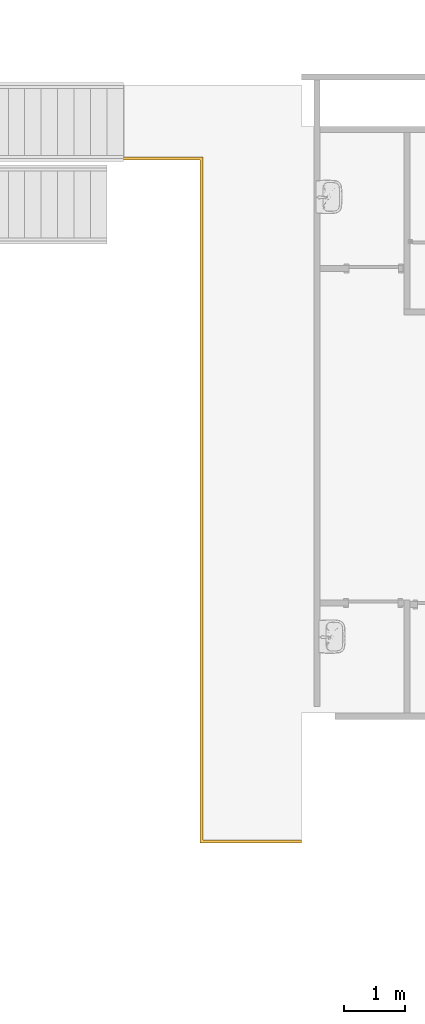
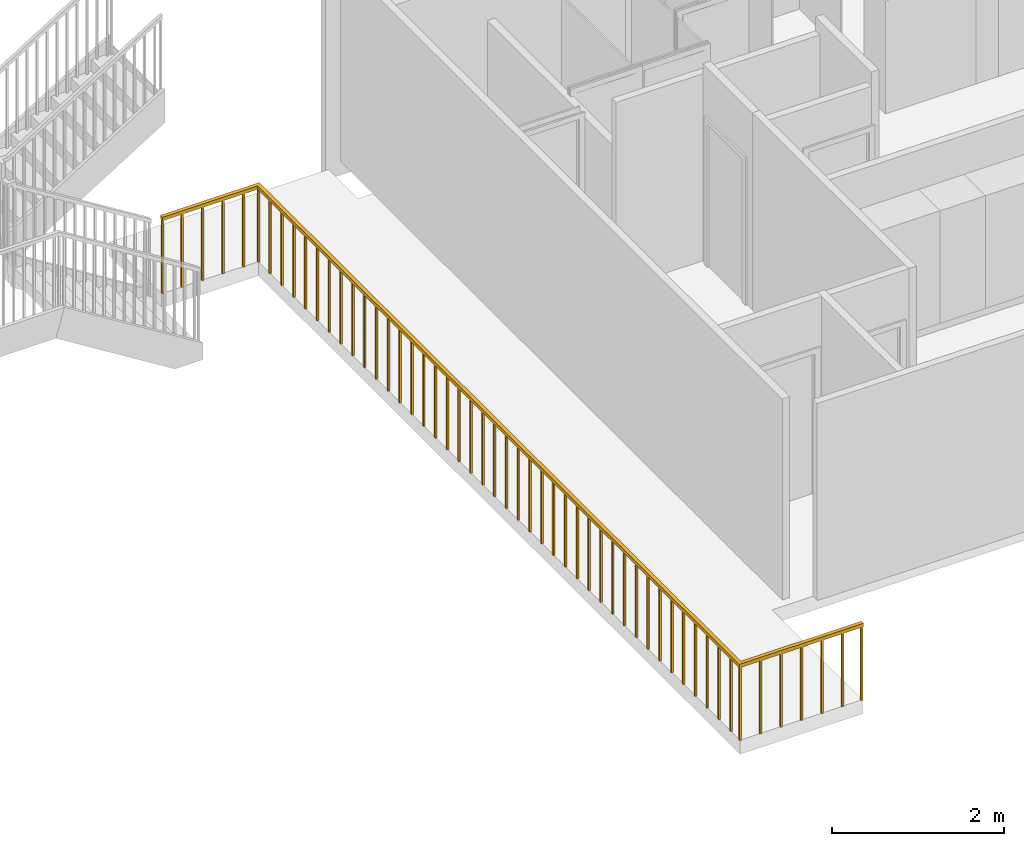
# One storey, part 10 of 14: 1 railing.
"""IFC2X3 building model written with IfcOpenShell, lengths in millimetres."""

from ifc_helpers import new_model, entity, si_unit, converted_unit, derived_unit, direction, frame, origin, place, context, subcontext, project, spatial, faceted_brep, element, save


model = new_model("IFC2X3")

# Units and contexts
model_context = context("Model", 3, precision=0.01, world=origin(), true_north=direction((4.05803320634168e-15, -1.0)))
body_context = subcontext(model_context, "Body", "Model", "MODEL_VIEW")
ifc_project = project(units=[si_unit("LENGTHUNIT", "METRE", prefix="MILLI"), si_unit("AREAUNIT", "SQUARE_METRE"), si_unit("VOLUMEUNIT", "CUBIC_METRE"), converted_unit("PLANEANGLEUNIT", "DEGREE", entity("IfcRatioMeasure", 0.0174532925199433), si_unit("PLANEANGLEUNIT", "RADIAN"), dimensions=[0, 0, 0, 0, 0, 0, 0]), si_unit("MASSUNIT", "GRAM", prefix="KILO"), derived_unit("MASSDENSITYUNIT", [(si_unit("MASSUNIT", "GRAM", prefix="KILO"), 1), (si_unit("LENGTHUNIT", "METRE"), -3)]), si_unit("TIMEUNIT", "SECOND"), si_unit("FREQUENCYUNIT", "HERTZ"), si_unit("THERMODYNAMICTEMPERATUREUNIT", "DEGREE_CELSIUS"), derived_unit("THERMALTRANSMITTANCEUNIT", [(si_unit("MASSUNIT", "GRAM", prefix="KILO"), 1), (si_unit("THERMODYNAMICTEMPERATUREUNIT", "KELVIN"), -1), (si_unit("TIMEUNIT", "SECOND"), -3)]), derived_unit("VOLUMETRICFLOWRATEUNIT", [(si_unit("LENGTHUNIT", "METRE"), 3), (si_unit("TIMEUNIT", "SECOND"), -1)]), si_unit("ELECTRICCURRENTUNIT", "AMPERE"), si_unit("ELECTRICVOLTAGEUNIT", "VOLT"), si_unit("POWERUNIT", "WATT"), si_unit("FORCEUNIT", "NEWTON", prefix="KILO"), si_unit("ILLUMINANCEUNIT", "LUX"), si_unit("LUMINOUSFLUXUNIT", "LUMEN"), si_unit("LUMINOUSINTENSITYUNIT", "CANDELA"), derived_unit("USERDEFINED", [(si_unit("MASSUNIT", "GRAM", prefix="KILO"), -1), (si_unit("LENGTHUNIT", "METRE"), -2), (si_unit("TIMEUNIT", "SECOND"), 3), (si_unit("LUMINOUSFLUXUNIT", "LUMEN"), 1)]), derived_unit("LINEARVELOCITYUNIT", [(si_unit("LENGTHUNIT", "METRE"), 1), (si_unit("TIMEUNIT", "SECOND"), -1)]), si_unit("PRESSUREUNIT", "PASCAL"), derived_unit("USERDEFINED", [(si_unit("LENGTHUNIT", "METRE"), -2), (si_unit("MASSUNIT", "GRAM", prefix="KILO"), 1), (si_unit("TIMEUNIT", "SECOND"), -2)])], contexts=[model_context])

# Site, building, storey
site_placement = place(None, frame((927466.849349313, 583801.882853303, 0.0), z_axis=(0.0, 0.0, 1.0), x_axis=(-1.0, 0.0, 0.0)))
site = spatial("IfcSite", under=ifc_project, at=site_placement, Name="Surface", CompositionType="ELEMENT")
building_placement = place(site_placement, origin())
building = spatial("IfcBuilding", under=site, at=building_placement, CompositionType="ELEMENT")
storey_placement = place(building_placement, frame((0.0, 0.0, 48170.0)))
storey = spatial("IfcBuildingStorey", under=building, at=storey_placement, Name="First floor", CompositionType="ELEMENT", Elevation=48170.0)

# Railing
railing_placement = place(storey_placement, frame((-80897.1407976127, 13272.1010509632, 0.0)))
element("IfcRailing", 1, at=railing_placement, inside=storey, Name="Railing:1100mm", ObjectType="Railing:1100mm", PredefinedType="NOTDEFINED", context=body_context, shape_type="Brep", body=[
    faceted_brep([(280.650441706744, 11227.0767002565, 1050.0), (280.650441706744, 11227.0767002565, 0.0), (280.650441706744, 11252.0767002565, 0.0), (280.650441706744, 11252.0767002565, 1050.0), (255.65044170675, 11252.0767002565, 0.0), (255.650441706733, 11252.0767002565, 1050.0), (255.650441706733, 11227.0767002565, 0.0), (255.650441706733, 11227.0767002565, 1050.0)], [[[0, 1, 2, 3]], [[3, 2, 4, 5]], [[5, 4, 6, 7]], [[1, 0, 7, 6]], [[0, 3, 5, 7]], [[2, 1, 6, 4]]]),
    faceted_brep([(555.650441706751, 11227.0767002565, 1050.0), (555.650441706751, 11227.0767002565, 0.0), (555.650441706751, 11252.0767002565, 0.0), (555.650441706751, 11252.0767002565, 1050.0), (530.650441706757, 11252.0767002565, 0.0), (530.650441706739, 11252.0767002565, 1050.0), (530.650441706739, 11227.0767002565, 0.0), (530.650441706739, 11227.0767002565, 1050.0)], [[[0, 1, 2, 3]], [[3, 2, 4, 5]], [[5, 4, 6, 7]], [[1, 0, 7, 6]], [[0, 3, 5, 7]], [[2, 1, 6, 4]]]),
    faceted_brep([(830.65044170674, 11227.0767002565, 1050.0), (830.65044170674, 11227.0767002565, 0.0), (830.65044170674, 11252.0767002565, 0.0), (830.65044170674, 11252.0767002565, 1050.0), (805.650441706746, 11252.0767002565, 0.0), (805.650441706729, 11252.0767002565, 1050.0), (805.650441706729, 11227.0767002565, 0.0), (805.650441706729, 11227.0767002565, 1050.0)], [[[0, 1, 2, 3]], [[3, 2, 4, 5]], [[5, 4, 6, 7]], [[1, 0, 7, 6]], [[0, 3, 5, 7]], [[2, 1, 6, 4]]]),
    faceted_brep([(1105.65044170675, 11227.0767002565, 1050.0), (1105.65044170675, 11227.0767002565, 0.0), (1105.65044170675, 11252.0767002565, 0.0), (1105.65044170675, 11252.0767002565, 1050.0), (1080.65044170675, 11252.0767002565, 0.0), (1080.65044170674, 11252.0767002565, 1050.0), (1080.65044170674, 11227.0767002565, 0.0), (1080.65044170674, 11227.0767002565, 1050.0)], [[[0, 1, 2, 3]], [[3, 2, 4, 5]], [[5, 4, 6, 7]], [[1, 0, 7, 6]], [[0, 3, 5, 7]], [[2, 1, 6, 4]]]),
    faceted_brep([(1380.65044170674, 11227.0767002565, 1050.0), (1380.65044170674, 11227.0767002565, 0.0), (1380.65044170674, 11252.0767002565, 0.0), (1380.65044170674, 11252.0767002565, 1050.0), (1355.65044170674, 11252.0767002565, 0.0), (1355.65044170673, 11252.0767002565, 1050.0), (1355.65044170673, 11227.0767002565, 0.0), (1355.65044170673, 11227.0767002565, 1050.0)], [[[0, 1, 2, 3]], [[3, 2, 4, 5]], [[5, 4, 6, 7]], [[1, 0, 7, 6]], [[0, 3, 5, 7]], [[2, 1, 6, 4]]]),
    faceted_brep([(1630.65044170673, 11012.5, 1050.0), (1630.65044170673, 11012.5, 0.0), (1655.65044170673, 11012.5, 0.0), (1655.65044170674, 11012.5, 1050.0), (1655.65044170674, 11037.5, 0.0), (1655.65044170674, 11037.5, 1050.0), (1630.65044170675, 11037.5, 0.0), (1630.65044170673, 11037.5, 1050.0)], [[[0, 1, 2, 3]], [[3, 2, 4, 5]], [[5, 4, 6, 7]], [[1, 0, 7, 6]], [[0, 3, 5, 7]], [[2, 1, 6, 4]]]),
    faceted_brep([(1630.65044170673, 10737.5, 1050.0), (1630.65044170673, 10737.5, 0.0), (1655.65044170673, 10737.5, 0.0), (1655.65044170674, 10737.5, 1050.0), (1655.65044170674, 10762.5, 0.0), (1655.65044170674, 10762.5, 1050.0), (1630.65044170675, 10762.5, 0.0), (1630.65044170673, 10762.5, 1050.0)], [[[0, 1, 2, 3]], [[3, 2, 4, 5]], [[5, 4, 6, 7]], [[1, 0, 7, 6]], [[0, 3, 5, 7]], [[2, 1, 6, 4]]]),
    faceted_brep([(1630.65044170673, 10462.5, 1050.0), (1630.65044170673, 10462.5, 0.0), (1655.65044170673, 10462.5, 0.0), (1655.65044170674, 10462.5, 1050.0), (1655.65044170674, 10487.5, 0.0), (1655.65044170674, 10487.5, 1050.0), (1630.65044170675, 10487.5, 0.0), (1630.65044170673, 10487.5, 1050.0)], [[[0, 1, 2, 3]], [[3, 2, 4, 5]], [[5, 4, 6, 7]], [[1, 0, 7, 6]], [[0, 3, 5, 7]], [[2, 1, 6, 4]]]),
    faceted_brep([(1630.65044170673, 10187.5, 1050.0), (1630.65044170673, 10187.5, 0.0), (1655.65044170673, 10187.5, 0.0), (1655.65044170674, 10187.5, 1050.0), (1655.65044170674, 10212.5, 0.0), (1655.65044170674, 10212.5, 1050.0), (1630.65044170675, 10212.5, 0.0), (1630.65044170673, 10212.5, 1050.0)], [[[0, 1, 2, 3]], [[3, 2, 4, 5]], [[5, 4, 6, 7]], [[1, 0, 7, 6]], [[0, 3, 5, 7]], [[2, 1, 6, 4]]]),
    faceted_brep([(1630.65044170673, 9912.50000000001, 1050.0), (1630.65044170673, 9912.50000000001, 0.0), (1655.65044170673, 9912.50000000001, 0.0), (1655.65044170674, 9912.50000000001, 1050.0), (1655.65044170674, 9937.50000000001, 0.0), (1655.65044170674, 9937.50000000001, 1050.0), (1630.65044170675, 9937.50000000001, 0.0), (1630.65044170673, 9937.50000000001, 1050.0)], [[[0, 1, 2, 3]], [[3, 2, 4, 5]], [[5, 4, 6, 7]], [[1, 0, 7, 6]], [[0, 3, 5, 7]], [[2, 1, 6, 4]]]),
    faceted_brep([(1630.65044170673, 9637.50000000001, 1050.0), (1630.65044170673, 9637.50000000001, 0.0), (1655.65044170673, 9637.50000000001, 0.0), (1655.65044170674, 9637.50000000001, 1050.0), (1655.65044170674, 9662.50000000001, 0.0), (1655.65044170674, 9662.50000000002, 1050.0), (1630.65044170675, 9662.50000000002, 0.0), (1630.65044170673, 9662.50000000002, 1050.0)], [[[0, 1, 2, 3]], [[3, 2, 4, 5]], [[5, 4, 6, 7]], [[1, 0, 7, 6]], [[0, 3, 5, 7]], [[2, 1, 6, 4]]]),
    faceted_brep([(1630.65044170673, 9362.50000000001, 1050.0), (1630.65044170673, 9362.50000000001, 0.0), (1655.65044170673, 9362.50000000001, 0.0), (1655.65044170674, 9362.50000000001, 1050.0), (1655.65044170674, 9387.50000000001, 0.0), (1655.65044170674, 9387.50000000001, 1050.0), (1630.65044170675, 9387.50000000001, 0.0), (1630.65044170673, 9387.50000000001, 1050.0)], [[[0, 1, 2, 3]], [[3, 2, 4, 5]], [[5, 4, 6, 7]], [[1, 0, 7, 6]], [[0, 3, 5, 7]], [[2, 1, 6, 4]]]),
    faceted_brep([(1630.65044170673, 9087.50000000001, 1050.0), (1630.65044170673, 9087.50000000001, 0.0), (1655.65044170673, 9087.50000000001, 0.0), (1655.65044170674, 9087.50000000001, 1050.0), (1655.65044170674, 9112.50000000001, 0.0), (1655.65044170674, 9112.50000000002, 1050.0), (1630.65044170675, 9112.50000000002, 0.0), (1630.65044170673, 9112.50000000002, 1050.0)], [[[0, 1, 2, 3]], [[3, 2, 4, 5]], [[5, 4, 6, 7]], [[1, 0, 7, 6]], [[0, 3, 5, 7]], [[2, 1, 6, 4]]]),
    faceted_brep([(1630.65044170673, 8812.50000000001, 1050.0), (1630.65044170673, 8812.50000000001, 0.0), (1655.65044170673, 8812.50000000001, 0.0), (1655.65044170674, 8812.50000000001, 1050.0), (1655.65044170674, 8837.50000000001, 0.0), (1655.65044170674, 8837.50000000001, 1050.0), (1630.65044170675, 8837.50000000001, 0.0), (1630.65044170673, 8837.50000000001, 1050.0)], [[[0, 1, 2, 3]], [[3, 2, 4, 5]], [[5, 4, 6, 7]], [[1, 0, 7, 6]], [[0, 3, 5, 7]], [[2, 1, 6, 4]]]),
    faceted_brep([(1630.65044170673, 8537.50000000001, 1050.0), (1630.65044170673, 8537.50000000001, 0.0), (1655.65044170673, 8537.50000000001, 0.0), (1655.65044170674, 8537.50000000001, 1050.0), (1655.65044170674, 8562.50000000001, 0.0), (1655.65044170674, 8562.50000000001, 1050.0), (1630.65044170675, 8562.50000000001, 0.0), (1630.65044170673, 8562.50000000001, 1050.0)], [[[0, 1, 2, 3]], [[3, 2, 4, 5]], [[5, 4, 6, 7]], [[1, 0, 7, 6]], [[0, 3, 5, 7]], [[2, 1, 6, 4]]]),
    faceted_brep([(1630.65044170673, 8262.50000000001, 1050.0), (1630.65044170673, 8262.50000000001, 0.0), (1655.65044170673, 8262.50000000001, 0.0), (1655.65044170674, 8262.50000000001, 1050.0), (1655.65044170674, 8287.50000000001, 0.0), (1655.65044170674, 8287.50000000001, 1050.0), (1630.65044170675, 8287.50000000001, 0.0), (1630.65044170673, 8287.50000000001, 1050.0)], [[[0, 1, 2, 3]], [[3, 2, 4, 5]], [[5, 4, 6, 7]], [[1, 0, 7, 6]], [[0, 3, 5, 7]], [[2, 1, 6, 4]]]),
    faceted_brep([(1630.65044170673, 7987.50000000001, 1050.0), (1630.65044170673, 7987.50000000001, 0.0), (1655.65044170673, 7987.50000000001, 0.0), (1655.65044170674, 7987.50000000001, 1050.0), (1655.65044170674, 8012.50000000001, 0.0), (1655.65044170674, 8012.50000000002, 1050.0), (1630.65044170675, 8012.50000000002, 0.0), (1630.65044170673, 8012.50000000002, 1050.0)], [[[0, 1, 2, 3]], [[3, 2, 4, 5]], [[5, 4, 6, 7]], [[1, 0, 7, 6]], [[0, 3, 5, 7]], [[2, 1, 6, 4]]]),
    faceted_brep([(1630.65044170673, 7712.50000000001, 1050.0), (1630.65044170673, 7712.50000000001, 0.0), (1655.65044170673, 7712.50000000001, 0.0), (1655.65044170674, 7712.50000000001, 1050.0), (1655.65044170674, 7737.50000000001, 0.0), (1655.65044170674, 7737.50000000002, 1050.0), (1630.65044170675, 7737.50000000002, 0.0), (1630.65044170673, 7737.50000000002, 1050.0)], [[[0, 1, 2, 3]], [[3, 2, 4, 5]], [[5, 4, 6, 7]], [[1, 0, 7, 6]], [[0, 3, 5, 7]], [[2, 1, 6, 4]]]),
    faceted_brep([(1630.65044170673, 7437.50000000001, 1050.0), (1630.65044170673, 7437.50000000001, 0.0), (1655.65044170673, 7437.50000000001, 0.0), (1655.65044170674, 7437.50000000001, 1050.0), (1655.65044170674, 7462.50000000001, 0.0), (1655.65044170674, 7462.50000000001, 1050.0), (1630.65044170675, 7462.50000000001, 0.0), (1630.65044170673, 7462.50000000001, 1050.0)], [[[0, 1, 2, 3]], [[3, 2, 4, 5]], [[5, 4, 6, 7]], [[1, 0, 7, 6]], [[0, 3, 5, 7]], [[2, 1, 6, 4]]]),
    faceted_brep([(1630.65044170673, 7162.50000000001, 1050.0), (1630.65044170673, 7162.50000000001, 0.0), (1655.65044170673, 7162.50000000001, 0.0), (1655.65044170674, 7162.50000000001, 1050.0), (1655.65044170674, 7187.50000000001, 0.0), (1655.65044170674, 7187.50000000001, 1050.0), (1630.65044170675, 7187.50000000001, 0.0), (1630.65044170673, 7187.50000000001, 1050.0)], [[[0, 1, 2, 3]], [[3, 2, 4, 5]], [[5, 4, 6, 7]], [[1, 0, 7, 6]], [[0, 3, 5, 7]], [[2, 1, 6, 4]]]),
    faceted_brep([(1630.65044170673, 6887.50000000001, 1050.0), (1630.65044170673, 6887.50000000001, 0.0), (1655.65044170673, 6887.50000000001, 0.0), (1655.65044170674, 6887.50000000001, 1050.0), (1655.65044170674, 6912.50000000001, 0.0), (1655.65044170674, 6912.50000000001, 1050.0), (1630.65044170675, 6912.50000000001, 0.0), (1630.65044170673, 6912.50000000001, 1050.0)], [[[0, 1, 2, 3]], [[3, 2, 4, 5]], [[5, 4, 6, 7]], [[1, 0, 7, 6]], [[0, 3, 5, 7]], [[2, 1, 6, 4]]]),
    faceted_brep([(1630.65044170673, 6612.50000000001, 1050.0), (1630.65044170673, 6612.50000000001, 0.0), (1655.65044170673, 6612.50000000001, 0.0), (1655.65044170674, 6612.50000000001, 1050.0), (1655.65044170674, 6637.50000000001, 0.0), (1655.65044170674, 6637.50000000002, 1050.0), (1630.65044170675, 6637.50000000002, 0.0), (1630.65044170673, 6637.50000000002, 1050.0)], [[[0, 1, 2, 3]], [[3, 2, 4, 5]], [[5, 4, 6, 7]], [[1, 0, 7, 6]], [[0, 3, 5, 7]], [[2, 1, 6, 4]]]),
    faceted_brep([(1630.65044170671, 6337.50000000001, 1050.0), (1630.65044170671, 6337.50000000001, 0.0), (1655.65044170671, 6337.50000000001, 0.0), (1655.65044170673, 6337.50000000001, 1050.0), (1655.65044170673, 6362.50000000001, 0.0), (1655.65044170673, 6362.50000000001, 1050.0), (1630.65044170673, 6362.50000000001, 0.0), (1630.65044170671, 6362.50000000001, 1050.0)], [[[0, 1, 2, 3]], [[3, 2, 4, 5]], [[5, 4, 6, 7]], [[1, 0, 7, 6]], [[0, 3, 5, 7]], [[2, 1, 6, 4]]]),
    faceted_brep([(1630.65044170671, 6062.50000000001, 1050.0), (1630.65044170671, 6062.50000000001, 0.0), (1655.65044170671, 6062.50000000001, 0.0), (1655.65044170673, 6062.50000000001, 1050.0), (1655.65044170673, 6087.50000000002, 0.0), (1655.65044170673, 6087.50000000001, 1050.0), (1630.65044170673, 6087.50000000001, 0.0), (1630.65044170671, 6087.50000000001, 1050.0)], [[[0, 1, 2, 3]], [[3, 2, 4, 5]], [[5, 4, 6, 7]], [[1, 0, 7, 6]], [[0, 3, 5, 7]], [[2, 1, 6, 4]]]),
    faceted_brep([(1630.65044170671, 5787.50000000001, 1050.0), (1630.65044170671, 5787.50000000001, 0.0), (1655.65044170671, 5787.50000000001, 0.0), (1655.65044170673, 5787.50000000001, 1050.0), (1655.65044170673, 5812.50000000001, 0.0), (1655.65044170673, 5812.50000000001, 1050.0), (1630.65044170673, 5812.50000000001, 0.0), (1630.65044170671, 5812.50000000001, 1050.0)], [[[0, 1, 2, 3]], [[3, 2, 4, 5]], [[5, 4, 6, 7]], [[1, 0, 7, 6]], [[0, 3, 5, 7]], [[2, 1, 6, 4]]]),
    faceted_brep([(1630.65044170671, 5512.50000000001, 1050.0), (1630.65044170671, 5512.50000000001, 0.0), (1655.65044170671, 5512.50000000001, 0.0), (1655.65044170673, 5512.50000000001, 1050.0), (1655.65044170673, 5537.50000000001, 0.0), (1655.65044170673, 5537.50000000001, 1050.0), (1630.65044170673, 5537.50000000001, 0.0), (1630.65044170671, 5537.50000000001, 1050.0)], [[[0, 1, 2, 3]], [[3, 2, 4, 5]], [[5, 4, 6, 7]], [[1, 0, 7, 6]], [[0, 3, 5, 7]], [[2, 1, 6, 4]]]),
    faceted_brep([(1630.65044170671, 5237.50000000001, 1050.0), (1630.65044170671, 5237.50000000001, 0.0), (1655.65044170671, 5237.50000000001, 0.0), (1655.65044170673, 5237.50000000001, 1050.0), (1655.65044170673, 5262.50000000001, 0.0), (1655.65044170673, 5262.50000000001, 1050.0), (1630.65044170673, 5262.50000000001, 0.0), (1630.65044170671, 5262.50000000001, 1050.0)], [[[0, 1, 2, 3]], [[3, 2, 4, 5]], [[5, 4, 6, 7]], [[1, 0, 7, 6]], [[0, 3, 5, 7]], [[2, 1, 6, 4]]]),
    faceted_brep([(1630.65044170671, 4962.50000000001, 1050.0), (1630.65044170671, 4962.50000000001, 0.0), (1655.65044170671, 4962.50000000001, 0.0), (1655.65044170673, 4962.50000000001, 1050.0), (1655.65044170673, 4987.50000000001, 0.0), (1655.65044170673, 4987.50000000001, 1050.0), (1630.65044170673, 4987.50000000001, 0.0), (1630.65044170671, 4987.50000000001, 1050.0)], [[[0, 1, 2, 3]], [[3, 2, 4, 5]], [[5, 4, 6, 7]], [[1, 0, 7, 6]], [[0, 3, 5, 7]], [[2, 1, 6, 4]]]),
    faceted_brep([(1630.65044170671, 4687.50000000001, 1050.0), (1630.65044170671, 4687.50000000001, 0.0), (1655.65044170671, 4687.50000000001, 0.0), (1655.65044170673, 4687.50000000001, 1050.0), (1655.65044170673, 4712.50000000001, 0.0), (1655.65044170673, 4712.50000000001, 1050.0), (1630.65044170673, 4712.50000000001, 0.0), (1630.65044170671, 4712.50000000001, 1050.0)], [[[0, 1, 2, 3]], [[3, 2, 4, 5]], [[5, 4, 6, 7]], [[1, 0, 7, 6]], [[0, 3, 5, 7]], [[2, 1, 6, 4]]]),
    faceted_brep([(1630.65044170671, 4412.50000000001, 1050.0), (1630.65044170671, 4412.50000000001, 0.0), (1655.65044170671, 4412.50000000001, 0.0), (1655.65044170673, 4412.50000000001, 1050.0), (1655.65044170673, 4437.50000000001, 0.0), (1655.65044170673, 4437.50000000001, 1050.0), (1630.65044170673, 4437.50000000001, 0.0), (1630.65044170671, 4437.50000000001, 1050.0)], [[[0, 1, 2, 3]], [[3, 2, 4, 5]], [[5, 4, 6, 7]], [[1, 0, 7, 6]], [[0, 3, 5, 7]], [[2, 1, 6, 4]]]),
    faceted_brep([(1630.65044170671, 4137.50000000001, 1050.0), (1630.65044170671, 4137.50000000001, 0.0), (1655.65044170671, 4137.50000000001, 0.0), (1655.65044170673, 4137.50000000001, 1050.0), (1655.65044170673, 4162.50000000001, 0.0), (1655.65044170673, 4162.50000000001, 1050.0), (1630.65044170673, 4162.50000000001, 0.0), (1630.65044170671, 4162.50000000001, 1050.0)], [[[0, 1, 2, 3]], [[3, 2, 4, 5]], [[5, 4, 6, 7]], [[1, 0, 7, 6]], [[0, 3, 5, 7]], [[2, 1, 6, 4]]]),
    faceted_brep([(1630.65044170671, 3862.50000000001, 1050.0), (1630.65044170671, 3862.50000000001, 0.0), (1655.65044170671, 3862.50000000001, 0.0), (1655.65044170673, 3862.50000000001, 1050.0), (1655.65044170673, 3887.50000000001, 0.0), (1655.65044170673, 3887.50000000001, 1050.0), (1630.65044170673, 3887.50000000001, 0.0), (1630.65044170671, 3887.50000000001, 1050.0)], [[[0, 1, 2, 3]], [[3, 2, 4, 5]], [[5, 4, 6, 7]], [[1, 0, 7, 6]], [[0, 3, 5, 7]], [[2, 1, 6, 4]]]),
    faceted_brep([(1630.65044170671, 3587.50000000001, 1050.0), (1630.65044170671, 3587.50000000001, 0.0), (1655.65044170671, 3587.50000000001, 0.0), (1655.65044170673, 3587.50000000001, 1050.0), (1655.65044170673, 3612.50000000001, 0.0), (1655.65044170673, 3612.50000000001, 1050.0), (1630.65044170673, 3612.50000000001, 0.0), (1630.65044170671, 3612.50000000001, 1050.0)], [[[0, 1, 2, 3]], [[3, 2, 4, 5]], [[5, 4, 6, 7]], [[1, 0, 7, 6]], [[0, 3, 5, 7]], [[2, 1, 6, 4]]]),
    faceted_brep([(1630.65044170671, 3312.50000000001, 1050.0), (1630.65044170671, 3312.50000000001, 0.0), (1655.65044170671, 3312.50000000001, 0.0), (1655.65044170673, 3312.50000000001, 1050.0), (1655.65044170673, 3337.50000000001, 0.0), (1655.65044170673, 3337.50000000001, 1050.0), (1630.65044170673, 3337.50000000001, 0.0), (1630.65044170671, 3337.50000000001, 1050.0)], [[[0, 1, 2, 3]], [[3, 2, 4, 5]], [[5, 4, 6, 7]], [[1, 0, 7, 6]], [[0, 3, 5, 7]], [[2, 1, 6, 4]]]),
    faceted_brep([(1630.65044170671, 3037.50000000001, 1050.0), (1630.65044170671, 3037.50000000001, 0.0), (1655.65044170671, 3037.50000000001, 0.0), (1655.65044170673, 3037.50000000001, 1050.0), (1655.65044170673, 3062.50000000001, 0.0), (1655.65044170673, 3062.50000000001, 1050.0), (1630.65044170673, 3062.50000000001, 0.0), (1630.65044170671, 3062.50000000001, 1050.0)], [[[0, 1, 2, 3]], [[3, 2, 4, 5]], [[5, 4, 6, 7]], [[1, 0, 7, 6]], [[0, 3, 5, 7]], [[2, 1, 6, 4]]]),
    faceted_brep([(1630.65044170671, 2762.50000000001, 1050.0), (1630.65044170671, 2762.50000000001, 0.0), (1655.65044170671, 2762.50000000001, 0.0), (1655.65044170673, 2762.50000000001, 1050.0), (1655.65044170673, 2787.50000000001, 0.0), (1655.65044170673, 2787.50000000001, 1050.0), (1630.65044170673, 2787.50000000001, 0.0), (1630.65044170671, 2787.50000000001, 1050.0)], [[[0, 1, 2, 3]], [[3, 2, 4, 5]], [[5, 4, 6, 7]], [[1, 0, 7, 6]], [[0, 3, 5, 7]], [[2, 1, 6, 4]]]),
    faceted_brep([(1630.65044170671, 2487.50000000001, 1050.0), (1630.65044170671, 2487.50000000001, 0.0), (1655.65044170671, 2487.50000000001, 0.0), (1655.65044170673, 2487.50000000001, 1050.0), (1655.65044170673, 2512.50000000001, 0.0), (1655.65044170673, 2512.50000000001, 1050.0), (1630.65044170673, 2512.50000000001, 0.0), (1630.65044170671, 2512.50000000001, 1050.0)], [[[0, 1, 2, 3]], [[3, 2, 4, 5]], [[5, 4, 6, 7]], [[1, 0, 7, 6]], [[0, 3, 5, 7]], [[2, 1, 6, 4]]]),
    faceted_brep([(1630.65044170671, 2212.50000000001, 1050.0), (1630.65044170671, 2212.50000000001, 0.0), (1655.65044170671, 2212.50000000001, 0.0), (1655.65044170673, 2212.50000000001, 1050.0), (1655.65044170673, 2237.50000000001, 0.0), (1655.65044170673, 2237.50000000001, 1050.0), (1630.65044170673, 2237.50000000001, 0.0), (1630.65044170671, 2237.50000000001, 1050.0)], [[[0, 1, 2, 3]], [[3, 2, 4, 5]], [[5, 4, 6, 7]], [[1, 0, 7, 6]], [[0, 3, 5, 7]], [[2, 1, 6, 4]]]),
    faceted_brep([(1630.65044170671, 1937.50000000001, 1050.0), (1630.65044170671, 1937.50000000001, 0.0), (1655.65044170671, 1937.50000000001, 0.0), (1655.65044170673, 1937.50000000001, 1050.0), (1655.65044170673, 1962.50000000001, 0.0), (1655.65044170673, 1962.50000000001, 1050.0), (1630.65044170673, 1962.50000000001, 0.0), (1630.65044170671, 1962.50000000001, 1050.0)], [[[0, 1, 2, 3]], [[3, 2, 4, 5]], [[5, 4, 6, 7]], [[1, 0, 7, 6]], [[0, 3, 5, 7]], [[2, 1, 6, 4]]]),
    faceted_brep([(1630.65044170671, 1662.50000000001, 1050.0), (1630.65044170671, 1662.50000000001, 0.0), (1655.65044170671, 1662.50000000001, 0.0), (1655.65044170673, 1662.50000000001, 1050.0), (1655.65044170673, 1687.50000000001, 0.0), (1655.65044170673, 1687.50000000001, 1050.0), (1630.65044170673, 1687.50000000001, 0.0), (1630.65044170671, 1687.50000000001, 1050.0)], [[[0, 1, 2, 3]], [[3, 2, 4, 5]], [[5, 4, 6, 7]], [[1, 0, 7, 6]], [[0, 3, 5, 7]], [[2, 1, 6, 4]]]),
    faceted_brep([(1630.65044170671, 1387.50000000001, 1050.0), (1630.65044170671, 1387.50000000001, 0.0), (1655.65044170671, 1387.50000000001, 0.0), (1655.65044170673, 1387.50000000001, 1050.0), (1655.65044170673, 1412.50000000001, 0.0), (1655.65044170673, 1412.50000000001, 1050.0), (1630.65044170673, 1412.50000000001, 0.0), (1630.65044170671, 1412.50000000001, 1050.0)], [[[0, 1, 2, 3]], [[3, 2, 4, 5]], [[5, 4, 6, 7]], [[1, 0, 7, 6]], [[0, 3, 5, 7]], [[2, 1, 6, 4]]]),
    faceted_brep([(1630.65044170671, 1112.50000000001, 1050.0), (1630.65044170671, 1112.50000000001, 0.0), (1655.65044170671, 1112.50000000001, 0.0), (1655.65044170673, 1112.50000000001, 1050.0), (1655.65044170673, 1137.50000000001, 0.0), (1655.65044170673, 1137.50000000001, 1050.0), (1630.65044170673, 1137.50000000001, 0.0), (1630.65044170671, 1137.50000000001, 1050.0)], [[[0, 1, 2, 3]], [[3, 2, 4, 5]], [[5, 4, 6, 7]], [[1, 0, 7, 6]], [[0, 3, 5, 7]], [[2, 1, 6, 4]]]),
    faceted_brep([(1630.65044170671, 837.500000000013, 1050.0), (1630.65044170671, 837.500000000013, 0.0), (1655.65044170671, 837.500000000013, 0.0), (1655.65044170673, 837.500000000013, 1050.0), (1655.65044170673, 862.500000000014, 0.0), (1655.65044170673, 862.500000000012, 1050.0), (1630.65044170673, 862.500000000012, 0.0), (1630.65044170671, 862.500000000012, 1050.0)], [[[0, 1, 2, 3]], [[3, 2, 4, 5]], [[5, 4, 6, 7]], [[1, 0, 7, 6]], [[0, 3, 5, 7]], [[2, 1, 6, 4]]]),
    faceted_brep([(1630.65044170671, 562.500000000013, 1050.0), (1630.65044170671, 562.500000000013, 0.0), (1655.65044170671, 562.500000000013, 0.0), (1655.65044170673, 562.500000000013, 1050.0), (1655.65044170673, 587.500000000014, 0.0), (1655.65044170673, 587.500000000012, 1050.0), (1630.65044170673, 587.500000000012, 0.0), (1630.65044170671, 587.500000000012, 1050.0)], [[[0, 1, 2, 3]], [[3, 2, 4, 5]], [[5, 4, 6, 7]], [[1, 0, 7, 6]], [[0, 3, 5, 7]], [[2, 1, 6, 4]]]),
    faceted_brep([(1630.65044170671, 287.500000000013, 1050.0), (1630.65044170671, 287.500000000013, 0.0), (1655.65044170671, 287.500000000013, 0.0), (1655.65044170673, 287.500000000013, 1050.0), (1655.65044170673, 312.500000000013, 0.0), (1655.65044170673, 312.500000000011, 1050.0), (1630.65044170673, 312.500000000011, 0.0), (1630.65044170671, 312.500000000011, 1050.0)], [[[0, 1, 2, 3]], [[3, 2, 4, 5]], [[5, 4, 6, 7]], [[1, 0, 7, 6]], [[0, 3, 5, 7]], [[2, 1, 6, 4]]]),
    faceted_brep([(1855.65044170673, 12.5000000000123, 1050.0), (1855.65044170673, 12.5000000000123, 0.0), (1855.65044170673, 37.5000000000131, 0.0), (1855.65044170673, 37.500000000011, 1050.0), (1830.65044170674, 37.500000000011, 0.0), (1830.65044170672, 37.500000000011, 1050.0), (1830.65044170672, 12.5000000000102, 0.0), (1830.65044170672, 12.5000000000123, 1050.0)], [[[0, 1, 2, 3]], [[3, 2, 4, 5]], [[5, 4, 6, 7]], [[1, 0, 7, 6]], [[0, 3, 5, 7]], [[2, 1, 6, 4]]]),
    faceted_brep([(2130.65044170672, 12.5000000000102, 1050.0), (2130.65044170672, 12.5000000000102, 0.0), (2130.65044170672, 37.500000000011, 0.0), (2130.65044170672, 37.5000000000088, 1050.0), (2105.65044170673, 37.5000000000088, 0.0), (2105.65044170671, 37.5000000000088, 1050.0), (2105.65044170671, 12.500000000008, 0.0), (2105.65044170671, 12.5000000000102, 1050.0)], [[[0, 1, 2, 3]], [[3, 2, 4, 5]], [[5, 4, 6, 7]], [[1, 0, 7, 6]], [[0, 3, 5, 7]], [[2, 1, 6, 4]]]),
    faceted_brep([(2405.65044170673, 12.5000000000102, 1050.0), (2405.65044170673, 12.5000000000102, 0.0), (2405.65044170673, 37.500000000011, 0.0), (2405.65044170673, 37.5000000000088, 1050.0), (2380.65044170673, 37.5000000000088, 0.0), (2380.65044170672, 37.5000000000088, 1050.0), (2380.65044170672, 12.500000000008, 0.0), (2380.65044170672, 12.5000000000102, 1050.0)], [[[0, 1, 2, 3]], [[3, 2, 4, 5]], [[5, 4, 6, 7]], [[1, 0, 7, 6]], [[0, 3, 5, 7]], [[2, 1, 6, 4]]]),
    faceted_brep([(2680.65044170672, 12.500000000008, 1050.0), (2680.65044170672, 12.500000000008, 0.0), (2680.65044170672, 37.5000000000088, 0.0), (2680.65044170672, 37.5000000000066, 1050.0), (2655.65044170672, 37.5000000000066, 0.0), (2655.65044170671, 37.5000000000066, 1050.0), (2655.65044170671, 12.5000000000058, 0.0), (2655.65044170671, 12.500000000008, 1050.0)], [[[0, 1, 2, 3]], [[3, 2, 4, 5]], [[5, 4, 6, 7]], [[1, 0, 7, 6]], [[0, 3, 5, 7]], [[2, 1, 6, 4]]]),
    faceted_brep([(1630.65044170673, 11227.0767002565, 1050.0), (1630.65044170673, 11227.0767002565, 0.0), (1655.65044170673, 11227.0767002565, 0.0), (1655.65044170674, 11227.0767002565, 1050.0), (1655.65044170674, 11252.0767002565, 0.0), (1655.65044170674, 11252.0767002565, 1050.0), (1630.65044170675, 11252.0767002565, 0.0), (1630.65044170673, 11252.0767002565, 1050.0)], [[[0, 1, 2, 3]], [[3, 2, 4, 5]], [[5, 4, 6, 7]], [[1, 0, 7, 6]], [[0, 3, 5, 7]], [[2, 1, 6, 4]]]),
    faceted_brep([(1655.65044170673, 12.5000000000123, 1050.0), (1655.65044170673, 12.5000000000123, 0.0), (1655.65044170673, 37.5000000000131, 0.0), (1655.65044170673, 37.500000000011, 1050.0), (1630.65044170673, 37.500000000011, 0.0), (1630.65044170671, 37.500000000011, 1050.0), (1630.65044170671, 12.5000000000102, 0.0), (1630.65044170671, 12.5000000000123, 1050.0)], [[[0, 1, 2, 3]], [[3, 2, 4, 5]], [[5, 4, 6, 7]], [[1, 0, 7, 6]], [[0, 3, 5, 7]], [[2, 1, 6, 4]]]),
    faceted_brep([(25.0, 11227.0767002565, 1050.0), (25.0, 11227.0767002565, 0.0), (25.0, 11252.0767002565, 0.0), (25.0, 11252.0767002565, 1050.0), (0.0, 11252.0767002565, 0.0), (0.0, 11252.0767002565, 1050.0), (0.0, 11227.0767002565, 0.0), (0.0, 11227.0767002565, 1050.0)], [[[0, 1, 2, 3]], [[3, 2, 4, 5]], [[5, 4, 6, 7]], [[1, 0, 7, 6]], [[0, 3, 5, 7]], [[2, 1, 6, 4]]]),
    faceted_brep([(2943.15044170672, 12.500000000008, 1050.0), (2943.15044170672, 12.500000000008, 0.0), (2943.15044170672, 37.5000000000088, 0.0), (2943.15044170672, 37.5000000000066, 1050.0), (2918.15044170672, 37.5000000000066, 0.0), (2918.15044170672, 37.5000000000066, 1050.0), (2918.15044170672, 12.5000000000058, 0.0), (2918.15044170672, 12.500000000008, 1050.0)], [[[0, 1, 2, 3]], [[3, 2, 4, 5]], [[5, 4, 6, 7]], [[1, 0, 7, 6]], [[0, 3, 5, 7]], [[2, 1, 6, 4]]]),
    faceted_brep([(1618.15044170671, 0.0, 1050.0), (1618.15044170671, 0.0, 1100.0), (1618.15044170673, 11214.5767002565, 1100.0), (1618.15044170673, 11214.5767002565, 1050.0), (1668.15044170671, 50.0, 1050.0), (1668.15044170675, 11264.5767002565, 1050.0), (1668.15044170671, 50.0, 1100.0), (1668.15044170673, 11264.5767002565, 1100.0), (0.0, 11214.5767002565, 1100.0), (0.0, 11264.5767002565, 1100.0), (0.0, 11264.5767002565, 1050.0), (0.0, 11214.5767002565, 1050.0), (2943.15044170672, 0.0, 1100.0), (2943.15044170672, 0.0, 1050.0), (2943.15044170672, 50.0, 1050.0), (2943.15044170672, 50.0, 1100.0)], [[[0, 1, 2, 3]], [[4, 0, 3, 5]], [[6, 4, 5, 7]], [[1, 6, 7, 2]], [[8, 9, 10, 11]], [[3, 2, 8, 11]], [[5, 3, 11, 10]], [[7, 5, 10, 9]], [[2, 7, 9, 8]], [[12, 13, 14, 15]], [[13, 12, 1, 0]], [[14, 13, 0, 4]], [[15, 14, 4, 6]], [[12, 15, 6, 1]]]),
])

save(model, "model.ifc")
